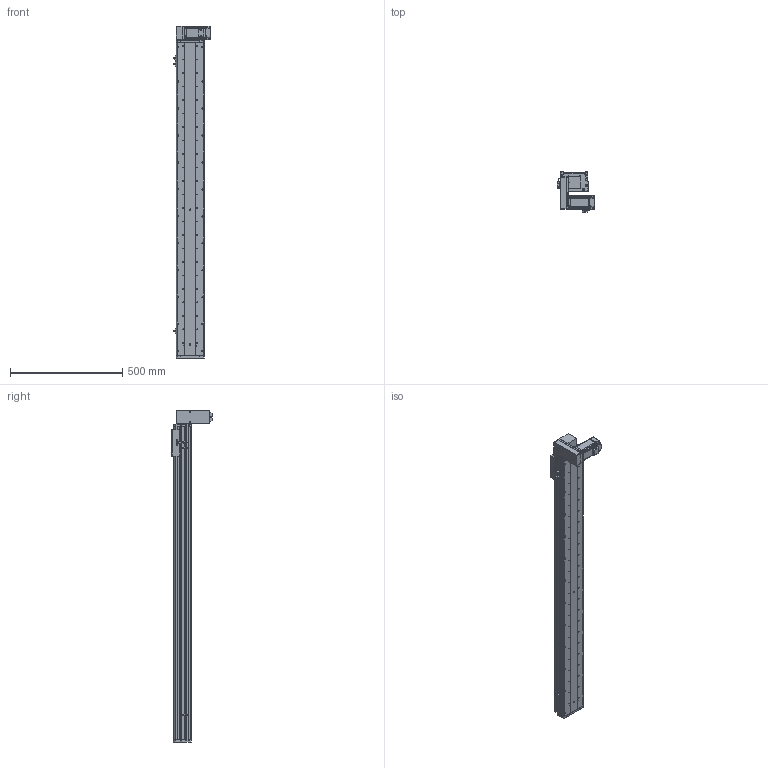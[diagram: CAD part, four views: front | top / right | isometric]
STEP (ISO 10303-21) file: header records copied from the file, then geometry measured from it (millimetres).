
FILE_DESCRIPTION (( 'STEP AP214' ), '1' );
FILE_NAME ('KSD125B-S1200-MRD-CM.STEP', '2017-10-21T06:31:05', ( '微软用户' ), ( '微软中国' ), 'SwSTEP 2.0', 'SolidWorks 2014', '' );
FILE_SCHEMA (( 'AUTOMOTIVE_DESIGN' ));
Length unit declared in the file: millimetre
Products named in the file (17): HTPA30S3M150_A_H6_a萇儂蚚; 100宽马达安装板连板上下折丝杆同步带; KSD125模组1200行程同步带-防尘盖; 125模组1200行程同步带-底板; MHMD042G1CA_2_03; KSD125模组同步带-防撞垫2; 覜茼え68遵圉猾敕; U倰嫖萇假蚾璃; U倰嫖萇EEㄜSX672; KSD125模组同步带-防撞垫1; 100宽马达安装板同步带右; 前端板-125宽模组同步带; 125模组同步带-尾端板1; KSD125模组同步带-滑动座1; KSD125B-S1200-MRD-CM; 悵誘欶奻狟殏; HTPA30S3M150_A_H6_a佪裝蚚
Assembly tree (20 placements, depth 2):
  KSD125B-S1200-MRD-CM
    KSD125模组同步带-滑动座1
    125模组同步带-尾端板1
    前端板-125宽模组同步带
    100宽马达安装板同步带右
    KSD125模组同步带-防撞垫1
    U倰嫖萇EEㄜSX672  x3
    U倰嫖萇假蚾璃  x3
    覜茼え68遵圉猾敕
    KSD125模组同步带-防撞垫2
    MHMD042G1CA_2_03
    125模组1200行程同步带-底板
    KSD125模组1200行程同步带-防尘盖
    100宽马达安装板连板上下折丝杆同步带
    HTPA30S3M150_A_H6_a萇儂蚚
    HTPA30S3M150_A_H6_a佪裝蚚
    悵誘欶奻狟殏
Bounding box: 168.7 x 179.5 x 1477 mm (x, y, z)
Volume: 4459118.3 mm3; surface area: 1489194.5 mm2
Topology: 19 solids, 22 shells, 2347 faces, 6805 edges, 4498 vertices
Faces by surface type: cylinder 1488, plane 732, cone 105, bspline 22
Entity records: 83843 total; most frequent: CARTESIAN_POINT 16515, DIRECTION 13026, ORIENTED_EDGE 12130, EDGE_CURVE 6143, AXIS2_PLACEMENT_3D 5049, VERTEX_POINT 4090, VECTOR 2928, LINE 2928
